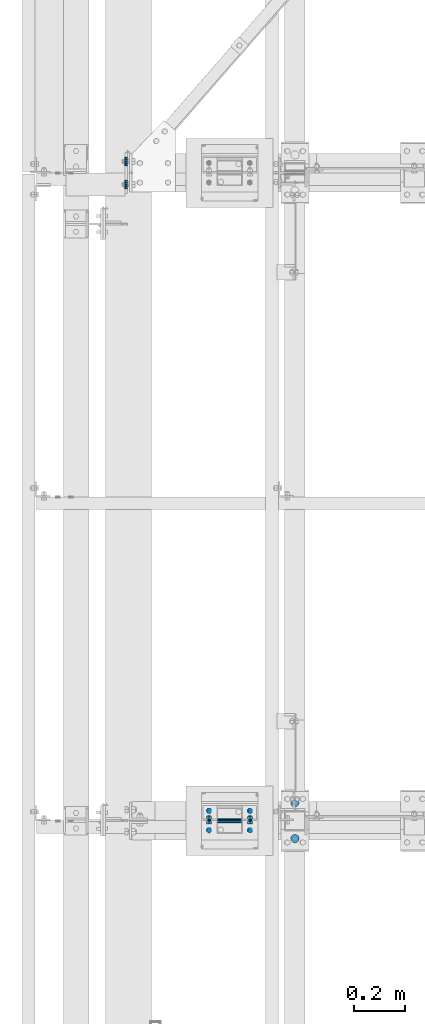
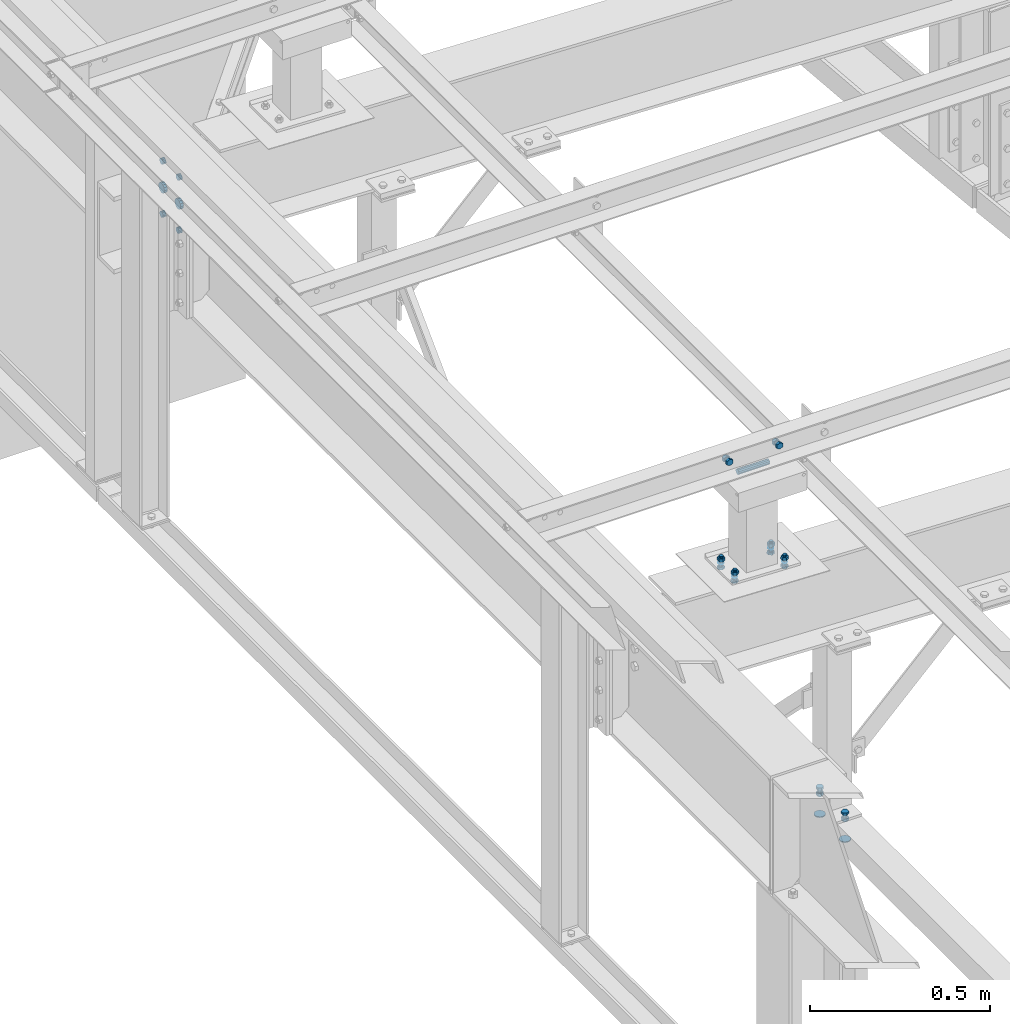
# One storey, part 69 of 3134: 8 mechanical fasteners, 4 elements without a shape of their own.
"""IFC2X3 building model written with IfcOpenShell, lengths in millimetres."""

from ifc_helpers import new_model, si_unit, frame, origin_with_axes, place, context, subcontext, project, spatial, faceted_brep, source, transform, mapped, material, type_object, element, aggregate, save


model = new_model("IFC2X3")

# Units and contexts
model_context = context("Model", 3, precision=1e-05, world=origin_with_axes())
body_context = subcontext(model_context, "Body", "Model", "MODEL_VIEW")
ifc_project = project(units=[si_unit("LENGTHUNIT", "METRE", prefix="MILLI"), si_unit("AREAUNIT", "SQUARE_METRE"), si_unit("VOLUMEUNIT", "CUBIC_METRE"), si_unit("MASSUNIT", "GRAM", prefix="KILO"), si_unit("TIMEUNIT", "SECOND"), si_unit("PLANEANGLEUNIT", "RADIAN"), si_unit("SOLIDANGLEUNIT", "STERADIAN"), si_unit("THERMODYNAMICTEMPERATUREUNIT", "DEGREE_CELSIUS"), si_unit("LUMINOUSINTENSITYUNIT", "LUMEN")], contexts=[model_context])

# Site, building, storey
site_placement = place(None, origin_with_axes())
site = spatial("IfcSite", under=ifc_project, at=site_placement, CompositionType="ELEMENT")
building_placement = place(site_placement, origin_with_axes())
building = spatial("IfcBuilding", under=site, at=building_placement, Name="Undefined", CompositionType="ELEMENT")
storey_placement = place(building_placement, origin_with_axes())
storey = spatial("IfcBuildingStorey", under=building, at=storey_placement, Name="Undefined", CompositionType="ELEMENT", Elevation=0.0)

# Assembly, mechanical fasteners
assembly_1_placement = place(storey_placement, origin_with_axes())
assembly_1 = element("IfcElementAssembly", 1, at=assembly_1_placement, inside=storey, AssemblyPlace="NOTDEFINED", PredefinedType="RIGID_FRAME")
ifc_material = material(Name="8.8")
mechanical_fastener_type = type_object("IfcMechanicalFastenerType", Name="Bolt assembly")
shared_shape_1 = source(origin_with_axes(), body_context, "Body", "Brep", [
    faceted_brep([(16.5, -3.0, 0.0), (14.289419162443, -3.0, 8.25000000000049), (8.24999999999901, -3.0, 14.2894191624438), (-1.70995436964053e-12, -3.0, 16.5), (-8.25000000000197, -3.0, 14.2894191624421), (-14.2894191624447, -3.0, 8.24999999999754), (-16.5, -3.0, -3.41990873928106e-12), (-14.2894191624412, -3.0, -8.25000000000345), (-8.24999999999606, -3.0, -14.2894191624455), (5.11154442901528e-12, -3.0, -16.5), (8.25000000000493, -3.0, -14.2894191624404), (14.2894191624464, -3.0, -8.24999999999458), (14.2894191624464, 0.1, -8.24999999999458), (8.25000000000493, 0.1, -14.2894191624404), (5.11154442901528e-12, 0.1, -16.5), (-8.24999999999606, 0.1, -14.2894191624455), (-14.2894191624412, 0.1, -8.25000000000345), (-16.5, 0.1, -3.41990873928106e-12), (-14.2894191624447, 0.1, 8.24999999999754), (-8.25000000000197, 0.1, 14.2894191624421), (-1.70995436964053e-12, 0.1, 16.5), (8.24999999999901, 0.1, 14.2894191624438), (14.289419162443, 0.1, 8.25000000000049), (16.5, 0.1, 0.0)], [[[0, 1, 2, 3, 4, 5, 6, 7, 8, 9, 10, 11]], [[12, 13, 14, 15, 16, 17, 18, 19, 20, 21, 22, 23]], [[0, 23, 22, 1]], [[1, 22, 21, 2]], [[2, 21, 20, 3]], [[3, 20, 19, 4]], [[4, 19, 18, 5]], [[5, 18, 17, 6]], [[6, 17, 16, 7]], [[7, 16, 15, 8]], [[8, 15, 14, 9]], [[9, 14, 13, 10]], [[10, 13, 12, 11]], [[11, 12, 23, 0]]]),
])
mechanical_fastener_1_placement = place(assembly_1_placement, frame((650.0, 27113.75, 3040.0), z_axis=(1.0, 0.0, 0.0), x_axis=(0.0, -1.0, 0.0)))
mechanical_fastener_1 = element("IfcMechanicalFastener", 2, at=mechanical_fastener_1_placement, type_object=mechanical_fastener_type, material=ifc_material, Name="Bolt assembly", NominalDiameter=30.0, NominalLength=3.0, context=body_context, shape_type="MappedRepresentation", body=[
    mapped(shared_shape_1, transform((0.0, 0.0, 0.0))),
    mapped(shared_shape_1, transform((140.0, 0.0, 0.0))),
])
shared_shape_2 = source(origin_with_axes(), body_context, "Body", "Brep", [
    faceted_brep([(10.9696551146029, -16.0, 0.0), (5.48482755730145, -16.0, 9.5), (-5.48482755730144, -16.0, 9.5), (-10.9696551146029, -16.0, 1.34339530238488e-15), (-5.48482755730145, -16.0, -9.5), (5.48482755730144, -16.0, -9.50000000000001), (5.48482755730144, -8.0, -9.50000000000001), (-5.48482755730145, -8.0, -9.5), (-10.9696551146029, -8.0, 1.34339530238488e-15), (-5.48482755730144, -8.0, 9.5), (5.48482755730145, -8.0, 9.5), (10.9696551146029, -8.0, 0.0), (6.0, -8.0, 0.0), (5.19615242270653, -8.0, 3.00000000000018), (2.99999999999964, -8.0, 5.19615242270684), (-6.21801588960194e-13, -8.0, 6.0), (-3.00000000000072, -8.0, 5.19615242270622), (-5.19615242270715, -8.0, 2.9999999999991), (-6.0, -8.0, -1.24360317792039e-12), (-5.19615242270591, -8.0, -3.00000000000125), (-2.99999999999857, -8.0, -5.19615242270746), (1.85874342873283e-12, -8.0, -6.0), (3.00000000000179, -8.0, -5.1961524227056), (5.19615242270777, -8.0, -2.99999999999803), (5.19615242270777, 17.0, -2.99999999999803), (3.00000000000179, 17.0, -5.1961524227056), (1.85874342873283e-12, 17.0, -6.0), (-2.99999999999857, 17.0, -5.19615242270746), (-5.19615242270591, 17.0, -3.00000000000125), (-6.0, 17.0, -1.24360317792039e-12), (-5.19615242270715, 17.0, 2.9999999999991), (-3.00000000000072, 17.0, 5.19615242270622), (-6.21801588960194e-13, 17.0, 6.0), (2.99999999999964, 17.0, 5.19615242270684), (5.19615242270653, 17.0, 3.00000000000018), (6.0, 17.0, 0.0), (10.9696551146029, 3.00000000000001, 0.0), (5.48482755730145, 3.00000000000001, 9.5), (-5.48482755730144, 3.00000000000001, 9.5), (-10.9696551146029, 3.00000000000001, 1.34339530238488e-15), (-5.48482755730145, 3.00000000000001, -9.5), (5.48482755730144, 3.00000000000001, -9.50000000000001), (5.48482755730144, 13.0, -9.50000000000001), (-5.48482755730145, 13.0, -9.5), (-10.9696551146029, 13.0, 1.34339530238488e-15), (-5.48482755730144, 13.0, 9.5), (5.48482755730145, 13.0, 9.5), (10.9696551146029, 13.0, 0.0)], [[[0, 1, 2, 3, 4, 5]], [[6, 7, 8, 9, 10, 11]], [[0, 11, 10, 1]], [[1, 10, 9, 2]], [[2, 9, 8, 3]], [[3, 8, 7, 4]], [[4, 7, 6, 5]], [[5, 6, 11, 0]], [[12, 13, 14, 15, 16, 17, 18, 19, 20, 21, 22, 23]], [[24, 25, 26, 27, 28, 29, 30, 31, 32, 33, 34, 35]], [[12, 35, 34, 13]], [[13, 34, 33, 14]], [[14, 33, 32, 15]], [[15, 32, 31, 16]], [[16, 31, 30, 17]], [[17, 30, 29, 18]], [[18, 29, 28, 19]], [[19, 28, 27, 20]], [[20, 27, 26, 21]], [[21, 26, 25, 22]], [[22, 25, 24, 23]], [[23, 24, 35, 12]], [[36, 37, 38, 39, 40, 41]], [[42, 43, 44, 45, 46, 47]], [[36, 47, 46, 37]], [[37, 46, 45, 38]], [[38, 45, 44, 39]], [[39, 44, 43, 40]], [[40, 43, 42, 41]], [[41, 42, 47, 36]]]),
    faceted_brep([(7.0, -7.9, 0.0), (6.06217782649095, -7.9, 3.50000000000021), (3.49999999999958, -7.9, 6.06217782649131), (-7.25435187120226e-13, -7.9, 7.0), (-3.50000000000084, -7.9, 6.06217782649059), (-6.06217782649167, -7.9, 3.49999999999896), (-7.0, -7.9, -1.45087037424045e-12), (-6.06217782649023, -7.9, -3.50000000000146), (-3.49999999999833, -7.9, -6.06217782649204), (2.1685340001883e-12, -7.9, -7.0), (3.50000000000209, -7.9, -6.06217782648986), (6.0621778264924, -7.9, -3.4999999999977), (6.0621778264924, 0.0999999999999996, -3.4999999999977), (3.50000000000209, 0.0999999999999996, -6.06217782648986), (2.1685340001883e-12, 0.0999999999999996, -7.0), (-3.49999999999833, 0.0999999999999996, -6.06217782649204), (-6.06217782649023, 0.0999999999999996, -3.50000000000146), (-7.0, 0.0999999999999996, -1.45087037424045e-12), (-6.06217782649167, 0.0999999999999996, 3.49999999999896), (-3.50000000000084, 0.0999999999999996, 6.06217782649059), (-7.25435187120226e-13, 0.0999999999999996, 7.0), (3.49999999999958, 0.0999999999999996, 6.06217782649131), (6.06217782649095, 0.0999999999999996, 3.50000000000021), (7.0, 0.0999999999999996, 0.0), (7.0, -0.1, 0.0), (6.06217782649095, -0.1, 3.50000000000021), (3.49999999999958, -0.1, 6.06217782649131), (-7.25435187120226e-13, -0.1, 7.0), (-3.50000000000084, -0.1, 6.06217782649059), (-6.06217782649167, -0.1, 3.49999999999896), (-7.0, -0.1, -1.45087037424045e-12), (-6.06217782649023, -0.1, -3.50000000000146), (-3.49999999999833, -0.1, -6.06217782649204), (2.1685340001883e-12, -0.1, -7.0), (3.50000000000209, -0.1, -6.06217782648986), (6.0621778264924, -0.1, -3.4999999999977), (6.0621778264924, 3.0, -3.4999999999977), (3.50000000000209, 3.0, -6.06217782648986), (2.1685340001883e-12, 3.0, -7.0), (-3.49999999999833, 3.0, -6.06217782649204), (-6.06217782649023, 3.0, -3.50000000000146), (-7.0, 3.0, -1.45087037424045e-12), (-6.06217782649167, 3.0, 3.49999999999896), (-3.50000000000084, 3.0, 6.06217782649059), (-7.25435187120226e-13, 3.0, 7.0), (3.49999999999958, 3.0, 6.06217782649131), (6.06217782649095, 3.0, 3.50000000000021), (7.0, 3.0, 0.0)], [[[0, 1, 2, 3, 4, 5, 6, 7, 8, 9, 10, 11]], [[12, 13, 14, 15, 16, 17, 18, 19, 20, 21, 22, 23]], [[0, 23, 22, 1]], [[1, 22, 21, 2]], [[2, 21, 20, 3]], [[3, 20, 19, 4]], [[4, 19, 18, 5]], [[5, 18, 17, 6]], [[6, 17, 16, 7]], [[7, 16, 15, 8]], [[8, 15, 14, 9]], [[9, 14, 13, 10]], [[10, 13, 12, 11]], [[11, 12, 23, 0]], [[24, 25, 26, 27, 28, 29, 30, 31, 32, 33, 34, 35]], [[36, 37, 38, 39, 40, 41, 42, 43, 44, 45, 46, 47]], [[24, 47, 46, 25]], [[25, 46, 45, 26]], [[26, 45, 44, 27]], [[27, 44, 43, 28]], [[28, 43, 42, 29]], [[29, 42, 41, 30]], [[30, 41, 40, 31]], [[31, 40, 39, 32]], [[32, 39, 38, 33]], [[33, 38, 37, 34]], [[34, 37, 36, 35]], [[35, 36, 47, 24]]]),
])
mechanical_fastener_2_placement = place(assembly_1_placement, frame((650.0, 27113.75, 3120.0), z_axis=(1.0, 0.0, 0.0), x_axis=(0.0, -1.0, 0.0)))
mechanical_fastener_2 = element("IfcMechanicalFastener", 3, at=mechanical_fastener_2_placement, type_object=mechanical_fastener_type, material=ifc_material, Name="Bolt assembly", NominalDiameter=12.0, NominalLength=25.0, context=body_context, shape_type="MappedRepresentation", body=[
    mapped(shared_shape_2, transform((0.0, 0.0, 0.0))),
    mapped(shared_shape_2, transform((140.0, 0.0, 0.0))),
])
aggregate(assembly_1, [mechanical_fastener_2, mechanical_fastener_1])

assembly_2_placement = place(storey_placement, origin_with_axes())
assembly_2 = element("IfcElementAssembly", 4, at=assembly_2_placement, inside=storey, Name="UPN100", AssemblyPlace="NOTDEFINED", PredefinedType="RIGID_FRAME")
shared_shape_3 = source(origin_with_axes(), body_context, "Body", "Brep", [
    faceted_brep([(16.5, 4.3, 0.0), (14.289419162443, 4.3, 8.25000000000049), (8.24999999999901, 4.3, 14.2894191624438), (-1.70995436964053e-12, 4.3, 16.5), (-8.25000000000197, 4.3, 14.2894191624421), (-14.2894191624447, 4.3, 8.24999999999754), (-16.5, 4.3, -3.41990873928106e-12), (-14.2894191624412, 4.3, -8.25000000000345), (-8.24999999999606, 4.3, -14.2894191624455), (5.11154442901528e-12, 4.3, -16.5), (8.25000000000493, 4.3, -14.2894191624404), (14.2894191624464, 4.3, -8.24999999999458), (14.2894191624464, 14.4, -8.24999999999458), (8.25000000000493, 14.4, -14.2894191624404), (5.11154442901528e-12, 14.4, -16.5), (-8.24999999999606, 14.4, -14.2894191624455), (-14.2894191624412, 14.4, -8.25000000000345), (-16.5, 14.4, -3.41990873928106e-12), (-14.2894191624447, 14.4, 8.24999999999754), (-8.25000000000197, 14.4, 14.2894191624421), (-1.70995436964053e-12, 14.4, 16.5), (8.24999999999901, 14.4, 14.2894191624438), (14.289419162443, 14.4, 8.25000000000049), (16.5, 14.4, 0.0)], [[[0, 1, 2, 3, 4, 5, 6, 7, 8, 9, 10, 11]], [[12, 13, 14, 15, 16, 17, 18, 19, 20, 21, 22, 23]], [[0, 23, 22, 1]], [[1, 22, 21, 2]], [[2, 21, 20, 3]], [[3, 20, 19, 4]], [[4, 19, 18, 5]], [[5, 18, 17, 6]], [[6, 17, 16, 7]], [[7, 16, 15, 8]], [[8, 15, 14, 9]], [[9, 14, 13, 10]], [[10, 13, 12, 11]], [[11, 12, 23, 0]]]),
])
mechanical_fastener_3_placement = place(assembly_2_placement, frame((0.0, 29575.0, 3877.31680927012), z_axis=(0.0, 1.0, 0.0), x_axis=(0.0, 0.0, -1.0)))
mechanical_fastener_3 = element("IfcMechanicalFastener", 5, at=mechanical_fastener_3_placement, type_object=mechanical_fastener_type, material=ifc_material, Name="Bolt assembly", NominalDiameter=30.0, NominalLength=10.0, context=body_context, shape_type="MappedRepresentation", body=[
    mapped(shared_shape_3, transform((0.0, 0.0, -45.0))),
    mapped(shared_shape_3, transform((0.0, 0.0, 45.0))),
])
shared_shape_4 = source(origin_with_axes(), body_context, "Body", "Brep", [
    faceted_brep([(9.0, 4.3, 0.0), (7.79422863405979, 4.3, 4.50000000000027), (4.49999999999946, 4.3, 7.79422863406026), (-9.3270238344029e-13, 4.3, 9.0), (-4.50000000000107, 4.3, 7.79422863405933), (-7.79422863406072, 4.3, 4.49999999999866), (-9.0, 4.3, -1.86540476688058e-12), (-7.79422863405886, 4.3, -4.50000000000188), (-4.49999999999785, 4.3, -7.79422863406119), (2.78811514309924e-12, 4.3, -9.0), (4.50000000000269, 4.3, -7.7942286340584), (7.79422863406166, 4.3, -4.49999999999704), (7.79422863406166, 14.4, -4.49999999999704), (4.50000000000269, 14.4, -7.7942286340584), (2.78811514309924e-12, 14.4, -9.0), (-4.49999999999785, 14.4, -7.79422863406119), (-7.79422863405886, 14.4, -4.50000000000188), (-9.0, 14.4, -1.86540476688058e-12), (-7.79422863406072, 14.4, 4.49999999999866), (-4.50000000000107, 14.4, 7.79422863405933), (-9.3270238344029e-13, 14.4, 9.0), (4.49999999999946, 14.4, 7.79422863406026), (7.79422863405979, 14.4, 4.50000000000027), (9.0, 14.4, 0.0)], [[[0, 1, 2, 3, 4, 5, 6, 7, 8, 9, 10, 11]], [[12, 13, 14, 15, 16, 17, 18, 19, 20, 21, 22, 23]], [[0, 23, 22, 1]], [[1, 22, 21, 2]], [[2, 21, 20, 3]], [[3, 20, 19, 4]], [[4, 19, 18, 5]], [[5, 18, 17, 6]], [[6, 17, 16, 7]], [[7, 16, 15, 8]], [[8, 15, 14, 9]], [[9, 14, 13, 10]], [[10, 13, 12, 11]], [[11, 12, 23, 0]]]),
])
mechanical_fastener_4_placement = place(assembly_2_placement, frame((0.0, 29575.0, 3967.31680927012), z_axis=(0.0, 1.0, 0.0), x_axis=(0.0, 0.0, -1.0)))
mechanical_fastener_4 = element("IfcMechanicalFastener", 6, at=mechanical_fastener_4_placement, type_object=mechanical_fastener_type, material=ifc_material, Name="Bolt assembly", NominalDiameter=16.0, NominalLength=10.0, context=body_context, shape_type="MappedRepresentation", body=[
    mapped(shared_shape_4, transform((0.0, 0.0, -45.0))),
    mapped(shared_shape_4, transform((180.0, 0.0, -45.0))),
    mapped(shared_shape_4, transform((0.0, 0.0, 45.0))),
    mapped(shared_shape_4, transform((180.0, 0.0, 45.0))),
])
aggregate(assembly_2, [mechanical_fastener_3, mechanical_fastener_4])

# Assembly, mechanical fastener
assembly_3_placement = place(storey_placement, origin_with_axes())
assembly_3 = element("IfcElementAssembly", 7, at=assembly_3_placement, inside=storey, AssemblyPlace="NOTDEFINED", PredefinedType="RIGID_FRAME")
shared_shape_5 = source(origin_with_axes(), body_context, "Body", "Brep", [
    faceted_brep([(10.9696551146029, -4.19432770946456, 0.0), (5.48482755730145, -4.19432770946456, 9.5), (-5.48482755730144, -4.19432770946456, 9.5), (-10.9696551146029, -4.19432770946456, 1.34339530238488e-15), (-5.48482755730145, -4.19432770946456, -9.5), (5.48482755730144, -4.19432770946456, -9.50000000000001), (5.48482755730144, 3.80567229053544, -9.50000000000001), (-5.48482755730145, 3.80567229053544, -9.5), (-10.9696551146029, 3.80567229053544, 1.34339530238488e-15), (-5.48482755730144, 3.80567229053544, 9.5), (5.48482755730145, 3.80567229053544, 9.5), (10.9696551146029, 3.80567229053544, 0.0), (6.0, 3.80567229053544, 0.0), (5.19615242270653, 3.80567229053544, 3.00000000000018), (2.99999999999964, 3.80567229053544, 5.19615242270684), (-6.21801588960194e-13, 3.80567229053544, 6.0), (-3.00000000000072, 3.80567229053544, 5.19615242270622), (-5.19615242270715, 3.80567229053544, 2.9999999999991), (-6.0, 3.80567229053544, -1.24360317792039e-12), (-5.19615242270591, 3.80567229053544, -3.00000000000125), (-2.99999999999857, 3.80567229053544, -5.19615242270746), (1.85874342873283e-12, 3.80567229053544, -6.0), (3.00000000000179, 3.80567229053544, -5.1961524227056), (5.19615242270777, 3.80567229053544, -2.99999999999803), (5.19615242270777, 38.8056722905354, -2.99999999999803), (3.00000000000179, 38.8056722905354, -5.1961524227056), (1.85874342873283e-12, 38.8056722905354, -6.0), (-2.99999999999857, 38.8056722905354, -5.19615242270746), (-5.19615242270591, 38.8056722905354, -3.00000000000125), (-6.0, 38.8056722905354, -1.24360317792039e-12), (-5.19615242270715, 38.8056722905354, 2.9999999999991), (-3.00000000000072, 38.8056722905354, 5.19615242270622), (-6.21801588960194e-13, 38.8056722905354, 6.0), (2.99999999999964, 38.8056722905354, 5.19615242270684), (5.19615242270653, 38.8056722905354, 3.00000000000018), (6.0, 38.8056722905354, 0.0), (10.9696551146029, 23.0139082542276, 0.0), (5.48482755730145, 23.0139082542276, 9.5), (-5.48482755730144, 23.0139082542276, 9.5), (-10.9696551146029, 23.0139082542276, 1.34339530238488e-15), (-5.48482755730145, 23.0139082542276, -9.5), (5.48482755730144, 23.0139082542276, -9.50000000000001), (5.48482755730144, 33.0139082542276, -9.50000000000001), (-5.48482755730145, 33.0139082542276, -9.5), (-10.9696551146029, 33.0139082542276, 1.34339530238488e-15), (-5.48482755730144, 33.0139082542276, 9.5), (5.48482755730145, 33.0139082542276, 9.5), (10.9696551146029, 33.0139082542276, 0.0)], [[[0, 1, 2, 3, 4, 5]], [[6, 7, 8, 9, 10, 11]], [[0, 11, 10, 1]], [[1, 10, 9, 2]], [[2, 9, 8, 3]], [[3, 8, 7, 4]], [[4, 7, 6, 5]], [[5, 6, 11, 0]], [[12, 13, 14, 15, 16, 17, 18, 19, 20, 21, 22, 23]], [[24, 25, 26, 27, 28, 29, 30, 31, 32, 33, 34, 35]], [[12, 35, 34, 13]], [[13, 34, 33, 14]], [[14, 33, 32, 15]], [[15, 32, 31, 16]], [[16, 31, 30, 17]], [[17, 30, 29, 18]], [[18, 29, 28, 19]], [[19, 28, 27, 20]], [[20, 27, 26, 21]], [[21, 26, 25, 22]], [[22, 25, 24, 23]], [[23, 24, 35, 12]], [[36, 37, 38, 39, 40, 41]], [[42, 43, 44, 45, 46, 47]], [[36, 47, 46, 37]], [[37, 46, 45, 38]], [[38, 45, 44, 39]], [[39, 44, 43, 40]], [[40, 43, 42, 41]], [[41, 42, 47, 36]]]),
    faceted_brep([(7.0, 3.90567229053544, 0.0), (6.06217782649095, 3.90567229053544, 3.50000000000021), (3.49999999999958, 3.90567229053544, 6.06217782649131), (-7.25435187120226e-13, 3.90567229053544, 7.0), (-3.50000000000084, 3.90567229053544, 6.06217782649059), (-6.06217782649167, 3.90567229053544, 3.49999999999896), (-7.0, 3.90567229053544, -1.45087037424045e-12), (-6.06217782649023, 3.90567229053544, -3.50000000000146), (-3.49999999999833, 3.90567229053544, -6.06217782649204), (2.1685340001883e-12, 3.90567229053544, -7.0), (3.50000000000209, 3.90567229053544, -6.06217782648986), (6.0621778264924, 3.90567229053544, -3.4999999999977), (6.0621778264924, 13.1056721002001, -3.4999999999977), (3.50000000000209, 13.1056721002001, -6.06217782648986), (2.1685340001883e-12, 13.1056721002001, -7.0), (-3.49999999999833, 13.1056721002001, -6.06217782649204), (-6.06217782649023, 13.1056721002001, -3.50000000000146), (-7.0, 13.1056721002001, -1.45087037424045e-12), (-6.06217782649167, 13.1056721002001, 3.49999999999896), (-3.50000000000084, 13.1056721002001, 6.06217782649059), (-7.25435187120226e-13, 13.1056721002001, 7.0), (3.49999999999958, 13.1056721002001, 6.06217782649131), (6.06217782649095, 13.1056721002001, 3.50000000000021), (7.0, 13.1056721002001, 0.0), (7.0, 14.9139082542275, 0.0), (6.06217782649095, 14.9139082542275, 3.50000000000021), (3.49999999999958, 14.9139082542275, 6.06217782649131), (-7.25435187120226e-13, 14.9139082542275, 7.0), (-3.50000000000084, 14.9139082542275, 6.06217782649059), (-6.06217782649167, 14.9139082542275, 3.49999999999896), (-7.0, 14.9139082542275, -1.45087037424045e-12), (-6.06217782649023, 14.9139082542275, -3.50000000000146), (-3.49999999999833, 14.9139082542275, -6.06217782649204), (2.1685340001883e-12, 14.9139082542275, -7.0), (3.50000000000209, 14.9139082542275, -6.06217782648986), (6.0621778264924, 14.9139082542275, -3.4999999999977), (6.0621778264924, 23.0139082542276, -3.4999999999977), (3.50000000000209, 23.0139082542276, -6.06217782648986), (2.1685340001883e-12, 23.0139082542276, -7.0), (-3.49999999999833, 23.0139082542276, -6.06217782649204), (-6.06217782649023, 23.0139082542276, -3.50000000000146), (-7.0, 23.0139082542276, -1.45087037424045e-12), (-6.06217782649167, 23.0139082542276, 3.49999999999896), (-3.50000000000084, 23.0139082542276, 6.06217782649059), (-7.25435187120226e-13, 23.0139082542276, 7.0), (3.49999999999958, 23.0139082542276, 6.06217782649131), (6.06217782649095, 23.0139082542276, 3.50000000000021), (7.0, 23.0139082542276, 0.0)], [[[0, 1, 2, 3, 4, 5, 6, 7, 8, 9, 10, 11]], [[12, 13, 14, 15, 16, 17, 18, 19, 20, 21, 22, 23]], [[0, 23, 22, 1]], [[1, 22, 21, 2]], [[2, 21, 20, 3]], [[3, 20, 19, 4]], [[4, 19, 18, 5]], [[5, 18, 17, 6]], [[6, 17, 16, 7]], [[7, 16, 15, 8]], [[8, 15, 14, 9]], [[9, 14, 13, 10]], [[10, 13, 12, 11]], [[11, 12, 23, 0]], [[24, 25, 26, 27, 28, 29, 30, 31, 32, 33, 34, 35]], [[36, 37, 38, 39, 40, 41, 42, 43, 44, 45, 46, 47]], [[24, 47, 46, 25]], [[25, 46, 45, 26]], [[26, 45, 44, 27]], [[27, 44, 43, 28]], [[28, 43, 42, 29]], [[29, 42, 41, 30]], [[30, 41, 40, 31]], [[31, 40, 39, 32]], [[32, 39, 38, 33]], [[33, 38, 37, 34]], [[34, 37, 36, 35]], [[35, 36, 47, 24]]]),
])
mechanical_fastener_5_placement = place(assembly_3_placement, frame((394.193176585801, 27081.7499999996, 4013.19000668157), z_axis=(-0.999387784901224, 0.0, 0.0349865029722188), x_axis=(0.0, -1.0, 0.0)))
mechanical_fastener_5 = element("IfcMechanicalFastener", 8, at=mechanical_fastener_5_placement, type_object=mechanical_fastener_type, material=ifc_material, Name="Bolt assembly", NominalDiameter=12.0, NominalLength=35.0, context=body_context, shape_type="MappedRepresentation", body=[
    mapped(shared_shape_5, transform((0.0, -5.32963895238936e-10, -79.9999999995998))),
    mapped(shared_shape_5, transform((76.0, -5.32963895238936e-10, -79.9999999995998))),
    mapped(shared_shape_5, transform((0.0, 5.3114490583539e-10, 79.9999999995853))),
    mapped(shared_shape_5, transform((76.0, 5.3114490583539e-10, 79.9999999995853))),
])

assembly_4_placement = place(storey_placement, origin_with_axes())
assembly_4 = element("IfcElementAssembly", 9, at=assembly_4_placement, inside=storey, AssemblyPlace="NOTDEFINED", PredefinedType="RIGID_FRAME")
shared_shape_6 = source(origin_with_axes(), body_context, "Body", "Brep", [
    faceted_brep([(7.0, 13.0000253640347, 0.0), (6.06217782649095, 13.0000253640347, 3.50000000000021), (3.49999999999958, 13.0000253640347, 6.06217782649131), (-7.25435187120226e-13, 13.0000253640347, 7.0), (-3.50000000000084, 13.0000253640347, 6.06217782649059), (-6.06217782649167, 13.0000253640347, 3.49999999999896), (-7.0, 13.0000253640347, -1.45087037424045e-12), (-6.06217782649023, 13.0000253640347, -3.50000000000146), (-3.49999999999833, 13.0000253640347, -6.06217782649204), (2.1685340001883e-12, 13.0000253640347, -7.0), (3.50000000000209, 13.0000253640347, -6.06217782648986), (6.0621778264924, 13.0000253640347, -3.4999999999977), (6.0621778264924, 15.0999999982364, -3.4999999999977), (3.50000000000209, 15.0999999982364, -6.06217782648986), (2.1685340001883e-12, 15.0999999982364, -7.0), (-3.49999999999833, 15.0999999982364, -6.06217782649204), (-6.06217782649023, 15.0999999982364, -3.50000000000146), (-7.0, 15.0999999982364, -1.45087037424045e-12), (-6.06217782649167, 15.0999999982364, 3.49999999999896), (-3.50000000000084, 15.0999999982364, 6.06217782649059), (-7.25435187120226e-13, 15.0999999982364, 7.0), (3.49999999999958, 15.0999999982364, 6.06217782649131), (6.06217782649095, 15.0999999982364, 3.50000000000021), (7.0, 15.0999999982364, 0.0)], [[[0, 1, 2, 3, 4, 5, 6, 7, 8, 9, 10, 11]], [[12, 13, 14, 15, 16, 17, 18, 19, 20, 21, 22, 23]], [[0, 23, 22, 1]], [[1, 22, 21, 2]], [[2, 21, 20, 3]], [[3, 20, 19, 4]], [[4, 19, 18, 5]], [[5, 18, 17, 6]], [[6, 17, 16, 7]], [[7, 16, 15, 8]], [[8, 15, 14, 9]], [[9, 14, 13, 10]], [[10, 13, 12, 11]], [[11, 12, 23, 0]]]),
])
mechanical_fastener_6_placement = place(assembly_4_placement, frame((394.193176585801, 27081.7499999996, 4013.19000668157), z_axis=(-0.999387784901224, 0.0, 0.0349865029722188), x_axis=(0.0, -1.0, 0.0)))
mechanical_fastener_6 = element("IfcMechanicalFastener", 10, at=mechanical_fastener_6_placement, type_object=mechanical_fastener_type, material=ifc_material, Name="Bolt assembly", NominalDiameter=12.0, NominalLength=2.0, context=body_context, shape_type="MappedRepresentation", body=[
    mapped(shared_shape_6, transform((0.0, -5.32963895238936e-10, -79.9999999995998))),
    mapped(shared_shape_6, transform((76.0, -5.32963895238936e-10, -79.9999999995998))),
    mapped(shared_shape_6, transform((0.0, 5.3114490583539e-10, 79.9999999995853))),
    mapped(shared_shape_6, transform((76.0, 5.3114490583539e-10, 79.9999999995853))),
])
aggregate(assembly_4, [mechanical_fastener_6])

# Mechanical fastener
shared_shape_7 = source(origin_with_axes(), body_context, "Body", "Brep", [
    faceted_brep([(9.0, -50.0, 0.0), (7.79422863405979, -50.0, 4.50000000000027), (4.49999999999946, -50.0, 7.79422863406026), (-9.3270238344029e-13, -50.0, 9.0), (-4.50000000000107, -50.0, 7.79422863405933), (-7.79422863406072, -50.0, 4.49999999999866), (-9.0, -50.0, -1.86540476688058e-12), (-7.79422863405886, -50.0, -4.50000000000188), (-4.49999999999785, -50.0, -7.79422863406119), (2.78811514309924e-12, -50.0, -9.0), (4.50000000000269, -50.0, -7.7942286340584), (7.79422863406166, -50.0, -4.49999999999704), (7.79422863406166, 50.1, -4.49999999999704), (4.50000000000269, 50.1, -7.7942286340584), (2.78811514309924e-12, 50.1, -9.0), (-4.49999999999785, 50.1, -7.79422863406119), (-7.79422863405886, 50.1, -4.50000000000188), (-9.0, 50.1, -1.86540476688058e-12), (-7.79422863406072, 50.1, 4.49999999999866), (-4.50000000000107, 50.1, 7.79422863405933), (-9.3270238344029e-13, 50.1, 9.0), (4.49999999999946, 50.1, 7.79422863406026), (7.79422863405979, 50.1, 4.50000000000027), (9.0, 50.1, 0.0)], [[[0, 1, 2, 3, 4, 5, 6, 7, 8, 9, 10, 11]], [[12, 13, 14, 15, 16, 17, 18, 19, 20, 21, 22, 23]], [[0, 23, 22, 1]], [[1, 22, 21, 2]], [[2, 21, 20, 3]], [[3, 20, 19, 4]], [[4, 19, 18, 5]], [[5, 18, 17, 6]], [[6, 17, 16, 7]], [[7, 16, 15, 8]], [[8, 15, 14, 9]], [[9, 14, 13, 10]], [[10, 13, 12, 11]], [[11, 12, 23, 0]]]),
])
mechanical_fastener_7_placement = place(assembly_3_placement, frame((395.0, 27043.75, 4351.0), z_axis=(0.0, 1.0, 0.0), x_axis=(0.0, 0.0, 1.0)))
mechanical_fastener_7 = element("IfcMechanicalFastener", 11, at=mechanical_fastener_7_placement, type_object=mechanical_fastener_type, material=ifc_material, Name="Bolt assembly", NominalDiameter=16.0, NominalLength=100.0, context=body_context, shape_type="MappedRepresentation", body=[
    mapped(shared_shape_7, transform((0.0, 0.0, 0.0))),
])

shared_shape_8 = source(origin_with_axes(), body_context, "Body", "Brep", [
    faceted_brep([(10.9696551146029, -12.0, 0.0), (5.48482755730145, -12.0, 9.5), (-5.48482755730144, -12.0, 9.5), (-10.9696551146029, -12.0, 1.34339530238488e-15), (-5.48482755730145, -12.0, -9.5), (5.48482755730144, -12.0, -9.50000000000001), (5.48482755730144, -4.0, -9.50000000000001), (-5.48482755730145, -4.0, -9.5), (-10.9696551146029, -4.0, 1.34339530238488e-15), (-5.48482755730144, -4.0, 9.5), (5.48482755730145, -4.0, 9.5), (10.9696551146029, -4.0, 0.0), (6.0, -4.0, 0.0), (5.19615242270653, -4.0, 3.00000000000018), (2.99999999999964, -4.0, 5.19615242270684), (-6.21801588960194e-13, -4.0, 6.0), (-3.00000000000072, -4.0, 5.19615242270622), (-5.19615242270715, -4.0, 2.9999999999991), (-6.0, -4.0, -1.24360317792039e-12), (-5.19615242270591, -4.0, -3.00000000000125), (-2.99999999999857, -4.0, -5.19615242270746), (1.85874342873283e-12, -4.0, -6.0), (3.00000000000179, -4.0, -5.1961524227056), (5.19615242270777, -4.0, -2.99999999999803), (5.19615242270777, 21.0, -2.99999999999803), (3.00000000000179, 21.0, -5.1961524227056), (1.85874342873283e-12, 21.0, -6.0), (-2.99999999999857, 21.0, -5.19615242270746), (-5.19615242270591, 21.0, -3.00000000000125), (-6.0, 21.0, -1.24360317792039e-12), (-5.19615242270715, 21.0, 2.9999999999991), (-3.00000000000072, 21.0, 5.19615242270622), (-6.21801588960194e-13, 21.0, 6.0), (2.99999999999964, 21.0, 5.19615242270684), (5.19615242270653, 21.0, 3.00000000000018), (6.0, 21.0, 0.0), (10.9696551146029, 6.00000000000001, 0.0), (5.48482755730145, 6.00000000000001, 9.5), (-5.48482755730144, 6.00000000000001, 9.5), (-10.9696551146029, 6.00000000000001, 1.34339530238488e-15), (-5.48482755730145, 6.00000000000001, -9.5), (5.48482755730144, 6.00000000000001, -9.50000000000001), (5.48482755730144, 16.0, -9.50000000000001), (-5.48482755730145, 16.0, -9.5), (-10.9696551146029, 16.0, 1.34339530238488e-15), (-5.48482755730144, 16.0, 9.5), (5.48482755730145, 16.0, 9.5), (10.9696551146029, 16.0, 0.0)], [[[0, 1, 2, 3, 4, 5]], [[6, 7, 8, 9, 10, 11]], [[0, 11, 10, 1]], [[1, 10, 9, 2]], [[2, 9, 8, 3]], [[3, 8, 7, 4]], [[4, 7, 6, 5]], [[5, 6, 11, 0]], [[12, 13, 14, 15, 16, 17, 18, 19, 20, 21, 22, 23]], [[24, 25, 26, 27, 28, 29, 30, 31, 32, 33, 34, 35]], [[12, 35, 34, 13]], [[13, 34, 33, 14]], [[14, 33, 32, 15]], [[15, 32, 31, 16]], [[16, 31, 30, 17]], [[17, 30, 29, 18]], [[18, 29, 28, 19]], [[19, 28, 27, 20]], [[20, 27, 26, 21]], [[21, 26, 25, 22]], [[22, 25, 24, 23]], [[23, 24, 35, 12]], [[36, 37, 38, 39, 40, 41]], [[42, 43, 44, 45, 46, 47]], [[36, 47, 46, 37]], [[37, 46, 45, 38]], [[38, 45, 44, 39]], [[39, 44, 43, 40]], [[40, 43, 42, 41]], [[41, 42, 47, 36]]]),
    faceted_brep([(7.0, -3.9, 0.0), (6.06217782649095, -3.9, 3.50000000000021), (3.49999999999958, -3.9, 6.06217782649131), (-7.25435187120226e-13, -3.9, 7.0), (-3.50000000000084, -3.9, 6.06217782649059), (-6.06217782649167, -3.9, 3.49999999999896), (-7.0, -3.9, -1.45087037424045e-12), (-6.06217782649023, -3.9, -3.50000000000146), (-3.49999999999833, -3.9, -6.06217782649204), (2.1685340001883e-12, -3.9, -7.0), (3.50000000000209, -3.9, -6.06217782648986), (6.0621778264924, -3.9, -3.4999999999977), (6.0621778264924, 0.0999999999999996, -3.4999999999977), (3.50000000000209, 0.0999999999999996, -6.06217782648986), (2.1685340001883e-12, 0.0999999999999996, -7.0), (-3.49999999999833, 0.0999999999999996, -6.06217782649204), (-6.06217782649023, 0.0999999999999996, -3.50000000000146), (-7.0, 0.0999999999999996, -1.45087037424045e-12), (-6.06217782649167, 0.0999999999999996, 3.49999999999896), (-3.50000000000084, 0.0999999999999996, 6.06217782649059), (-7.25435187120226e-13, 0.0999999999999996, 7.0), (3.49999999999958, 0.0999999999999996, 6.06217782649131), (6.06217782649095, 0.0999999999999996, 3.50000000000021), (7.0, 0.0999999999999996, 0.0), (7.0, -0.1, 0.0), (6.06217782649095, -0.1, 3.50000000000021), (3.49999999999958, -0.1, 6.06217782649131), (-7.25435187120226e-13, -0.1, 7.0), (-3.50000000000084, -0.1, 6.06217782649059), (-6.06217782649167, -0.1, 3.49999999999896), (-7.0, -0.1, -1.45087037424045e-12), (-6.06217782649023, -0.1, -3.50000000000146), (-3.49999999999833, -0.1, -6.06217782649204), (2.1685340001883e-12, -0.1, -7.0), (3.50000000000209, -0.1, -6.06217782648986), (6.0621778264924, -0.1, -3.4999999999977), (6.0621778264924, 6.00000000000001, -3.4999999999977), (3.50000000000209, 6.00000000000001, -6.06217782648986), (2.1685340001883e-12, 6.00000000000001, -7.0), (-3.49999999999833, 6.00000000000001, -6.06217782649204), (-6.06217782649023, 6.00000000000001, -3.50000000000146), (-7.0, 6.00000000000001, -1.45087037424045e-12), (-6.06217782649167, 6.00000000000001, 3.49999999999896), (-3.50000000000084, 6.00000000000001, 6.06217782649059), (-7.25435187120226e-13, 6.00000000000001, 7.0), (3.49999999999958, 6.00000000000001, 6.06217782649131), (6.06217782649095, 6.00000000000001, 3.50000000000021), (7.0, 6.00000000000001, 0.0)], [[[0, 1, 2, 3, 4, 5, 6, 7, 8, 9, 10, 11]], [[12, 13, 14, 15, 16, 17, 18, 19, 20, 21, 22, 23]], [[0, 23, 22, 1]], [[1, 22, 21, 2]], [[2, 21, 20, 3]], [[3, 20, 19, 4]], [[4, 19, 18, 5]], [[5, 18, 17, 6]], [[6, 17, 16, 7]], [[7, 16, 15, 8]], [[8, 15, 14, 9]], [[9, 14, 13, 10]], [[10, 13, 12, 11]], [[11, 12, 23, 0]], [[24, 25, 26, 27, 28, 29, 30, 31, 32, 33, 34, 35]], [[36, 37, 38, 39, 40, 41, 42, 43, 44, 45, 46, 47]], [[24, 47, 46, 25]], [[25, 46, 45, 26]], [[26, 45, 44, 27]], [[27, 44, 43, 28]], [[28, 43, 42, 29]], [[29, 42, 41, 30]], [[30, 41, 40, 31]], [[31, 40, 39, 32]], [[32, 39, 38, 33]], [[33, 38, 37, 34]], [[34, 37, 36, 35]], [[35, 36, 47, 24]]]),
])
mechanical_fastener_8_placement = place(assembly_3_placement, frame((394.999950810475, 27043.749683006, 4400.0), z_axis=(1.0, 0.0, 0.0), x_axis=(0.0, 0.0, -1.0)))
mechanical_fastener_8 = element("IfcMechanicalFastener", 12, at=mechanical_fastener_8_placement, type_object=mechanical_fastener_type, material=ifc_material, Name="Bolt assembly", NominalDiameter=12.0, NominalLength=25.0, context=body_context, shape_type="MappedRepresentation", body=[
    mapped(shared_shape_8, transform((0.0, -5.32963895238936e-10, -79.9999999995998))),
    mapped(shared_shape_8, transform((0.0, 5.3114490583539e-10, 79.9999999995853))),
])

aggregate(assembly_3, [mechanical_fastener_5, mechanical_fastener_7, mechanical_fastener_8])

save(model, "model.ifc")
